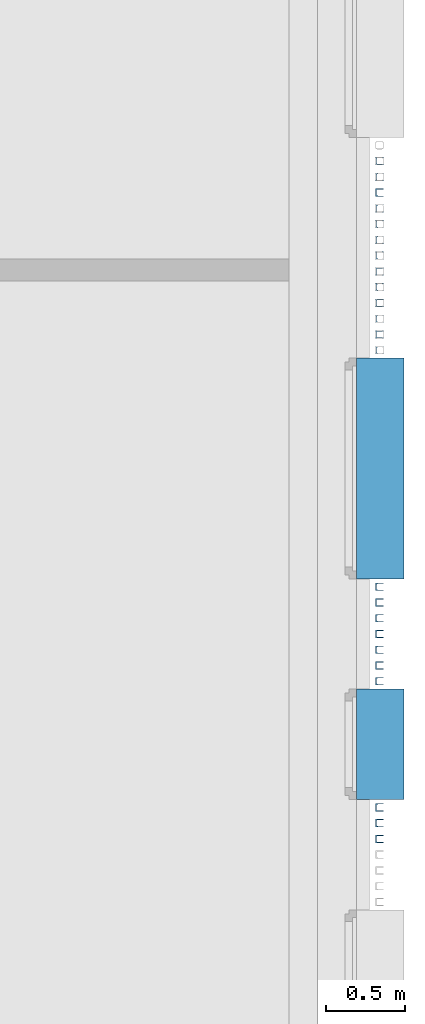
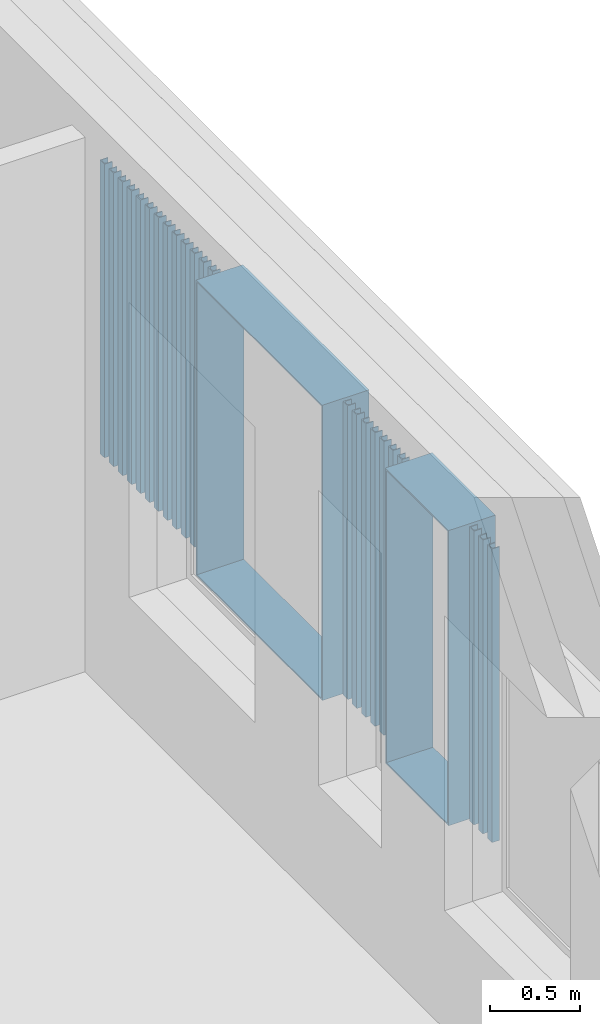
# One storey, part 41 of 100: 25 discrete accessories.
"""IFC2X3 building model written with IfcOpenShell, lengths in millimetres."""

from ifc_helpers import new_model, entity, si_unit, converted_unit, derived_unit, money_unit, direction, frame, origin_with_axes, place, context, subcontext, project, spatial, faceted_brep, source, transform, mapped, material, type_object, element, save


model = new_model("IFC2X3")

# Units and contexts
model_context = context("Model", 3, precision=0.01, world=origin_with_axes(), true_north=direction((0.0, 1.0)))
body_context = subcontext(model_context, "Body", "Model", "MODEL_VIEW")
ifc_project = project(units=[si_unit("LENGTHUNIT", "METRE", prefix="MILLI"), si_unit("AREAUNIT", "SQUARE_METRE"), si_unit("VOLUMEUNIT", "CUBIC_METRE"), converted_unit("PLANEANGLEUNIT", "DEGREE", entity("IfcPlaneAngleMeasure", 0.0174532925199), si_unit("PLANEANGLEUNIT", "RADIAN"), dimensions=[0, 0, 0, 0, 0, 0, 0]), si_unit("SOLIDANGLEUNIT", "STERADIAN"), money_unit("EUR"), converted_unit("TIMEUNIT", "Year", entity("IfcTimeMeasure", 31556926.0), si_unit("TIMEUNIT", "SECOND"), dimensions=[0, 0, 1, 0, 0, 0, 0]), si_unit("MASSUNIT", "GRAM", prefix="KILO"), si_unit("THERMODYNAMICTEMPERATUREUNIT", "DEGREE_CELSIUS"), si_unit("LUMINOUSINTENSITYUNIT", "LUMEN"), si_unit("ENERGYUNIT", "JOULE", prefix="MEGA"), derived_unit("THERMALCONDUCTANCEUNIT", [(si_unit("POWERUNIT", "WATT"), 1), (si_unit("LENGTHUNIT", "METRE"), -1), (si_unit("THERMODYNAMICTEMPERATUREUNIT", "KELVIN"), -1)]), derived_unit("SPECIFICHEATCAPACITYUNIT", [(si_unit("ENERGYUNIT", "JOULE"), 1), (si_unit("MASSUNIT", "GRAM", prefix="KILO"), -1), (si_unit("THERMODYNAMICTEMPERATUREUNIT", "KELVIN"), -1)]), derived_unit("MASSDENSITYUNIT", [(si_unit("MASSUNIT", "GRAM", prefix="KILO"), 1), (si_unit("VOLUMEUNIT", "CUBIC_METRE"), -1)])], contexts=[model_context])

# Site, building, storey
site_placement = place(None, origin_with_axes())
site = spatial("IfcSite", under=ifc_project, at=site_placement, Name="Politse- ja Piirivalveameti ning Päästeameti ühishoone", CompositionType="ELEMENT")
building_placement = place(site_placement, origin_with_axes())
building = spatial("IfcBuilding", under=site, at=building_placement, Name="Politse- ja Piirivalveameti ning Päästeameti ühishoone", CompositionType="ELEMENT")
storey_placement = place(building_placement, frame((0.0, 0.0, 3800.0), z_axis=(0.0, 0.0, 1.0), x_axis=(1.0, 0.0, 0.0)))
storey = spatial("IfcBuildingStorey", under=building, at=storey_placement, Name="Teine korrus", CompositionType="ELEMENT", Elevation=3800.0)

# Discrete accessories
ifc_material_1 = material(Name="SV-01_Krohv - Kips")
discrete_accessory_type_1 = type_object("IfcDiscreteAccessoryType", Name="Architrave 01 23")
shared_shape_1 = source(origin_with_axes(), body_context, "Body", "Brep", [
    faceted_brep([(-350.0, 0.0, -10.0), (350.0, 0.0, -10.0), (350.0, -300.182356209, -10.0), (-350.0, -300.182356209, -10.0), (-340.0, 0.0, 0.0), (340.0, 0.0, 0.0), (340.0, -300.182356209, 0.0), (-340.0, -300.182356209, 0.0)], [[[0, 1, 2, 3]], [[0, 4, 5, 1]], [[1, 5, 6, 2]], [[3, 2, 6, 7]], [[4, 0, 3, 7]], [[5, 4, 7, 6]]]),
    faceted_brep([(350.0, 0.0, -10.0), (350.0, 0.0, 1990.0), (350.0, -300.182356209, 1990.0), (350.0, -300.182356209, -10.0), (340.0, 0.0, 0.0), (340.0, 0.0, 1980.0), (340.0, -300.182356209, 1980.0), (340.0, -300.182356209, 0.0)], [[[0, 1, 2, 3]], [[0, 4, 5, 1]], [[1, 5, 6, 2]], [[3, 2, 6, 7]], [[4, 0, 3, 7]], [[5, 4, 7, 6]]]),
    faceted_brep([(350.0, 0.0, 1990.0), (-350.0, 0.0, 1990.0), (-350.0, -300.182356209, 1990.0), (350.0, -300.182356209, 1990.0), (340.0, 0.0, 1980.0), (-340.0, 0.0, 1980.0), (-340.0, -300.182356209, 1980.0), (340.0, -300.182356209, 1980.0)], [[[0, 1, 2, 3]], [[0, 4, 5, 1]], [[1, 5, 6, 2]], [[3, 2, 6, 7]], [[4, 0, 3, 7]], [[5, 4, 7, 6]]]),
    faceted_brep([(-350.0, 0.0, 1990.0), (-350.0, 0.0, -10.0), (-350.0, -300.182356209, -10.0), (-350.0, -300.182356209, 1990.0), (-340.0, 0.0, 1980.0), (-340.0, 0.0, 0.0), (-340.0, -300.182356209, 0.0), (-340.0, -300.182356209, 1980.0)], [[[0, 1, 2, 3]], [[0, 4, 5, 1]], [[1, 5, 6, 2]], [[3, 2, 6, 7]], [[4, 0, 3, 7]], [[5, 4, 7, 6]]]),
])
discrete_accessory_1_placement = place(storey_placement, frame((70090.5664257, 18849.9520832, 810.0), z_axis=(0.0, 0.0, 1.0), x_axis=(0.0, 1.0, 0.0)))
element("IfcDiscreteAccessory", 1, at=discrete_accessory_1_placement, inside=storey, type_object=discrete_accessory_type_1, material=ifc_material_1, Name="AKNARAAM 01", context=body_context, shape_type="MappedRepresentation", body=[
    mapped(shared_shape_1, transform((0.0, 0.0, 0.0))),
])
shared_shape_2 = source(origin_with_axes(), body_context, "Body", "Brep", [
    faceted_brep([(-700.0, 0.0, -10.0), (700.0, 0.0, -10.0), (700.0, -300.182356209, -10.0), (-700.0, -300.182356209, -10.0), (-690.0, 0.0, 0.0), (690.0, 0.0, 0.0), (690.0, -300.182356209, 0.0), (-690.0, -300.182356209, 0.0)], [[[0, 1, 2, 3]], [[0, 4, 5, 1]], [[1, 5, 6, 2]], [[3, 2, 6, 7]], [[4, 0, 3, 7]], [[5, 4, 7, 6]]]),
    faceted_brep([(700.0, 0.0, -10.0), (700.0, 0.0, 1990.0), (700.0, -300.182356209, 1990.0), (700.0, -300.182356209, -10.0), (690.0, 0.0, 0.0), (690.0, 0.0, 1980.0), (690.0, -300.182356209, 1980.0), (690.0, -300.182356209, 0.0)], [[[0, 1, 2, 3]], [[0, 4, 5, 1]], [[1, 5, 6, 2]], [[3, 2, 6, 7]], [[4, 0, 3, 7]], [[5, 4, 7, 6]]]),
    faceted_brep([(700.0, 0.0, 1990.0), (-700.0, 0.0, 1990.0), (-700.0, -300.182356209, 1990.0), (700.0, -300.182356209, 1990.0), (690.0, 0.0, 1980.0), (-690.0, 0.0, 1980.0), (-690.0, -300.182356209, 1980.0), (690.0, -300.182356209, 1980.0)], [[[0, 1, 2, 3]], [[0, 4, 5, 1]], [[1, 5, 6, 2]], [[3, 2, 6, 7]], [[4, 0, 3, 7]], [[5, 4, 7, 6]]]),
    faceted_brep([(-700.0, 0.0, 1990.0), (-700.0, 0.0, -10.0), (-700.0, -300.182356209, -10.0), (-700.0, -300.182356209, 1990.0), (-690.0, 0.0, 1980.0), (-690.0, 0.0, 0.0), (-690.0, -300.182356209, 0.0), (-690.0, -300.182356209, 1980.0)], [[[0, 1, 2, 3]], [[0, 4, 5, 1]], [[1, 5, 6, 2]], [[3, 2, 6, 7]], [[4, 0, 3, 7]], [[5, 4, 7, 6]]]),
])
discrete_accessory_2_placement = place(storey_placement, frame((70090.5664257, 20600.0702441, 810.0), z_axis=(0.0, 0.0, 1.0), x_axis=(0.0, 1.0, 0.0)))
element("IfcDiscreteAccessory", 2, at=discrete_accessory_2_placement, inside=storey, type_object=discrete_accessory_type_1, material=ifc_material_1, Name="AKNARAAM 01", context=body_context, shape_type="MappedRepresentation", body=[
    mapped(shared_shape_2, transform((0.0, 0.0, 0.0))),
])
ifc_material_2 = material(Name="ET-05_Teras")
discrete_accessory_type_2 = type_object("IfcDiscreteAccessoryType", Name="UAP Column 23")
shared_shape_3 = source(origin_with_axes(), body_context, "Body", "Brep", [
    faceted_brep([(25.0, -25.0, 0.0), (25.0, -20.0, 0.0), (25.0, -20.0, 1990.0), (25.0, -25.0, 1990.0), (-25.0, -25.0, 0.0), (-25.0, 25.0, 0.0), (25.0, 25.0, 0.0), (25.0, 20.0, 0.0), (-8.5, 20.0, 0.0), (-14.25, 18.4592921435, 0.0), (-18.4592921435, 14.25, 0.0), (-20.0, 8.5, 0.0), (-20.0, -8.5, 0.0), (-18.4592921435, -14.25, 0.0), (-14.25, -18.4592921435, 0.0), (-8.5, -20.0, 0.0), (-8.5, -20.0, 1990.0), (-14.25, -18.4592921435, 1990.0), (-18.4592921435, -14.25, 1990.0), (-20.0, -8.5, 1990.0), (-20.0, 8.5, 1990.0), (-18.4592921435, 14.25, 1990.0), (-14.25, 18.4592921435, 1990.0), (-8.5, 20.0, 1990.0), (25.0, 20.0, 1990.0), (25.0, 25.0, 1990.0), (-25.0, 25.0, 1990.0), (-25.0, -25.0, 1990.0)], [[[0, 1, 2, 3]], [[0, 4, 5, 6, 7, 8, 9, 10, 11, 12, 13, 14, 15, 1]], [[1, 15, 16, 2]], [[3, 2, 16, 17, 18, 19, 20, 21, 22, 23, 24, 25, 26, 27]], [[4, 0, 3, 27]], [[5, 4, 27, 26]], [[6, 5, 26, 25]], [[7, 6, 25, 24]], [[8, 7, 24, 23]], [[9, 8, 23, 22]], [[10, 9, 22, 21]], [[11, 10, 21, 20]], [[12, 11, 20, 19]], [[13, 12, 19, 18]], [[14, 13, 18, 17]], [[15, 14, 17, 16]]]),
])
for number, where, z_axis, x_axis in (
    (3, (70235.2095212, 21350.0702441, 810.000049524), (0.0, 0.0, 1.0), (1.0, 0.0, 0.0)),
    (4, (70235.2095212, 21450.0702441, 810.000049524), (0.0, 0.0, 1.0), (1.0, 0.0, 0.0)),
    (5, (70235.2095212, 21550.0702441, 810.000049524), (0.0, 0.0, 1.0), (1.0, 0.0, 0.0)),
    (6, (70235.2095212, 21650.0702441, 810.000049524), (0.0, 0.0, 1.0), (1.0, 0.0, 0.0)),
    (7, (70235.2095212, 21750.0702441, 810.000049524), (0.0, 0.0, 1.0), (1.0, 0.0, 0.0)),
    (8, (70235.2095212, 21850.0702441, 810.000049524), (0.0, 0.0, 1.0), (1.0, 0.0, 0.0)),
    (9, (70235.2095212, 21950.0702441, 810.000049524), (0.0, 0.0, 1.0), (1.0, 0.0, 0.0)),
    (10, (70235.2095212, 22050.0702441, 810.000049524), (0.0, 0.0, 1.0), (1.0, 0.0, 0.0)),
    (11, (70235.2095212, 22150.0702441, 810.000049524), (0.0, 0.0, 1.0), (1.0, 0.0, 0.0)),
    (12, (70235.2095212, 22250.0702441, 810.000049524), (0.0, 0.0, 1.0), (1.0, 0.0, 0.0)),
    (13, (70235.2095212, 22350.0702441, 810.000049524), (0.0, 0.0, 1.0), (1.0, 0.0, 0.0)),
    (14, (70235.2095212, 22450.0702441, 810.000049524), (0.0, 0.0, 1.0), (1.0, 0.0, 0.0)),
    (15, (70235.2095212, 22550.0702441, 810.000049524), (0.0, 0.0, 1.0), (1.0, 0.0, 0.0)),
    (16, (70235.2095212, 19249.9520832, 810.000049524), (0.0, 0.0, 1.0), (1.0, 0.0, 0.0)),
    (17, (70235.2095212, 19349.9520832, 810.000049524), (0.0, 0.0, 1.0), (1.0, 0.0, 0.0)),
    (18, (70235.2095212, 19449.9520832, 810.000049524), (0.0, 0.0, 1.0), (1.0, 0.0, 0.0)),
    (19, (70235.2095212, 19549.9520832, 810.000049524), (0.0, 0.0, 1.0), (1.0, 0.0, 0.0)),
    (20, (70235.2095212, 19649.9520832, 810.000049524), (0.0, 0.0, 1.0), (1.0, 0.0, 0.0)),
    (21, (70235.2095212, 19749.9520832, 810.000049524), (0.0, 0.0, 1.0), (1.0, 0.0, 0.0)),
    (22, (70235.2095212, 19849.9520832, 810.000049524), (0.0, 0.0, 1.0), (1.0, 0.0, 0.0)),
    (23, (70235.2095212, 18249.9520832, 810.000049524), (0.0, 0.0, 1.0), (1.0, 0.0, 0.0)),
    (24, (70235.2095212, 18349.9520832, 810.000049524), (0.0, 0.0, 1.0), (1.0, 0.0, 0.0)),
    (25, (70235.2095212, 18449.9520832, 810.000049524), (0.0, 0.0, 1.0), (1.0, 0.0, 0.0)),
):
    element("IfcDiscreteAccessory", number, at=place(storey_placement, frame(where, z_axis=z_axis, x_axis=x_axis)), inside=storey, type_object=discrete_accessory_type_2, material=ifc_material_2, Name="Fassaadiribid", context=body_context, shape_type="MappedRepresentation", body=[
        mapped(shared_shape_3, transform((0.0, 0.0, 0.0))),
    ])

save(model, "model.ifc")
